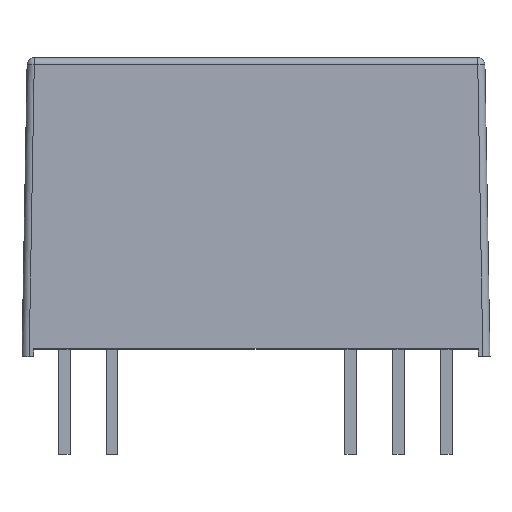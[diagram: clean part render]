
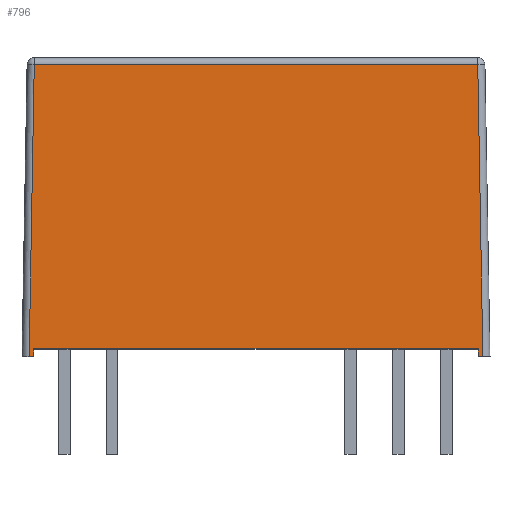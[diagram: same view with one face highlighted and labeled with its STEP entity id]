
A CAD part, top view. The second image highlights one B-rep face of the part: STEP entity #796.
In plain terms, the highlighted planar face has unit normal (0, 0.018, 1).
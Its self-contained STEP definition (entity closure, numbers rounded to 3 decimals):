
#13 = DIRECTION ( 'NONE',  ( -0.017, 1., -0.017 ) ) ;
#37 = DIRECTION ( 'NONE',  ( -1., 0., 0. ) ) ;
#38 = VECTOR ( 'NONE', #13, 1000. ) ;
#58 = DIRECTION ( 'NONE',  ( 1., 0., 0. ) ) ;
#68 = CARTESIAN_POINT ( 'NONE',  ( -9.8, 0., 4.95 ) ) ;
#95 = CARTESIAN_POINT ( 'NONE',  ( -9.8, 0., 4.95 ) ) ;
#97 = VERTEX_POINT ( 'NONE', #1507 ) ;
#147 = LINE ( 'NONE', #1460, #648 ) ;
#183 = CARTESIAN_POINT ( 'NONE',  ( -9.287, 12.205, 4.737 ) ) ;
#239 = ORIENTED_EDGE ( 'NONE', *, *, #894, .T. ) ;
#274 = CARTESIAN_POINT ( 'NONE',  ( -9.3, 0., 4.95 ) ) ;
#291 = LINE ( 'NONE', #375, #38 ) ;
#368 = LINE ( 'NONE', #556, #657 ) ;
#375 = CARTESIAN_POINT ( 'NONE',  ( 9.494, 0.337, 4.944 ) ) ;
#377 = VECTOR ( 'NONE', #401, 1000. ) ;
#401 = DIRECTION ( 'NONE',  ( 0., -1., 0.017 ) ) ;
#406 = CARTESIAN_POINT ( 'NONE',  ( 9.3, 0., 4.95 ) ) ;
#440 = DIRECTION ( 'NONE',  ( -0.017, -1., 0.017 ) ) ;
#455 = ORIENTED_EDGE ( 'NONE', *, *, #781, .T. ) ;
#468 = VERTEX_POINT ( 'NONE', #1502 ) ;
#477 = ORIENTED_EDGE ( 'NONE', *, *, #644, .T. ) ;
#504 = DIRECTION ( 'NONE',  ( 0., -1., 0.017 ) ) ;
#556 = CARTESIAN_POINT ( 'NONE',  ( -9.5, -0.005, 4.95 ) ) ;
#611 = LINE ( 'NONE', #770, #1315 ) ;
#627 = VERTEX_POINT ( 'NONE', #753 ) ;
#633 = LINE ( 'NONE', #1308, #766 ) ;
#635 = CARTESIAN_POINT ( 'NONE',  ( -9.3, 0.3, 4.945 ) ) ;
#644 = EDGE_CURVE ( 'NONE', #97, #1451, #1420, .T. ) ;
#648 = VECTOR ( 'NONE', #1085, 1000. ) ;
#657 = VECTOR ( 'NONE', #440, 1000. ) ;
#699 = PLANE ( 'NONE',  #1264 ) ;
#732 = DIRECTION ( 'NONE',  ( 1., 0., 0. ) ) ;
#753 = CARTESIAN_POINT ( 'NONE',  ( 9.3, 0., 4.95 ) ) ;
#766 = VECTOR ( 'NONE', #37, 1000. ) ;
#770 = CARTESIAN_POINT ( 'NONE',  ( -9.3, 0., 4.95 ) ) ;
#781 = EDGE_CURVE ( 'NONE', #1541, #97, #368, .T. ) ;
#796 = ADVANCED_FACE ( 'NONE', ( #1290 ), #699, .T. ) ;
#817 = VERTEX_POINT ( 'NONE', #1162 ) ;
#825 = EDGE_LOOP ( 'NONE', ( #239, #1589, #1353, #455, #477, #910, #1474, #964 ) ) ;
#846 = VERTEX_POINT ( 'NONE', #635 ) ;
#894 = EDGE_CURVE ( 'NONE', #627, #817, #147, .T. ) ;
#897 = LINE ( 'NONE', #406, #377 ) ;
#910 = ORIENTED_EDGE ( 'NONE', *, *, #1655, .T. ) ;
#964 = ORIENTED_EDGE ( 'NONE', *, *, #1329, .T. ) ;
#981 = VECTOR ( 'NONE', #732, 1000. ) ;
#984 = DIRECTION ( 'NONE',  ( 0., 0.017, 1. ) ) ;
#1032 = DIRECTION ( 'NONE',  ( 0., 1., -0.017 ) ) ;
#1047 = CARTESIAN_POINT ( 'NONE',  ( 9.3, 0.3, 4.945 ) ) ;
#1085 = DIRECTION ( 'NONE',  ( 1., 0., 0. ) ) ;
#1154 = VECTOR ( 'NONE', #58, 1000. ) ;
#1162 = CARTESIAN_POINT ( 'NONE',  ( 9.5, 0., 4.95 ) ) ;
#1191 = EDGE_CURVE ( 'NONE', #817, #468, #291, .T. ) ;
#1257 = VERTEX_POINT ( 'NONE', #1047 ) ;
#1264 = AXIS2_PLACEMENT_3D ( 'NONE', #68, #984, #504 ) ;
#1290 = FACE_OUTER_BOUND ( 'NONE', #825, .T. ) ;
#1308 = CARTESIAN_POINT ( 'NONE',  ( -9.8, 12.205, 4.737 ) ) ;
#1315 = VECTOR ( 'NONE', #1032, 1000. ) ;
#1329 = EDGE_CURVE ( 'NONE', #1257, #627, #897, .T. ) ;
#1353 = ORIENTED_EDGE ( 'NONE', *, *, #1366, .T. ) ;
#1366 = EDGE_CURVE ( 'NONE', #468, #1541, #633, .T. ) ;
#1420 = LINE ( 'NONE', #95, #981 ) ;
#1451 = VERTEX_POINT ( 'NONE', #274 ) ;
#1460 = CARTESIAN_POINT ( 'NONE',  ( -9.8, 0., 4.95 ) ) ;
#1474 = ORIENTED_EDGE ( 'NONE', *, *, #1496, .T. ) ;
#1480 = CARTESIAN_POINT ( 'NONE',  ( -9.8, 0.3, 4.945 ) ) ;
#1496 = EDGE_CURVE ( 'NONE', #846, #1257, #1667, .T. ) ;
#1502 = CARTESIAN_POINT ( 'NONE',  ( 9.287, 12.205, 4.737 ) ) ;
#1507 = CARTESIAN_POINT ( 'NONE',  ( -9.5, 0., 4.95 ) ) ;
#1541 = VERTEX_POINT ( 'NONE', #183 ) ;
#1589 = ORIENTED_EDGE ( 'NONE', *, *, #1191, .T. ) ;
#1655 = EDGE_CURVE ( 'NONE', #1451, #846, #611, .T. ) ;
#1667 = LINE ( 'NONE', #1480, #1154 ) ;
